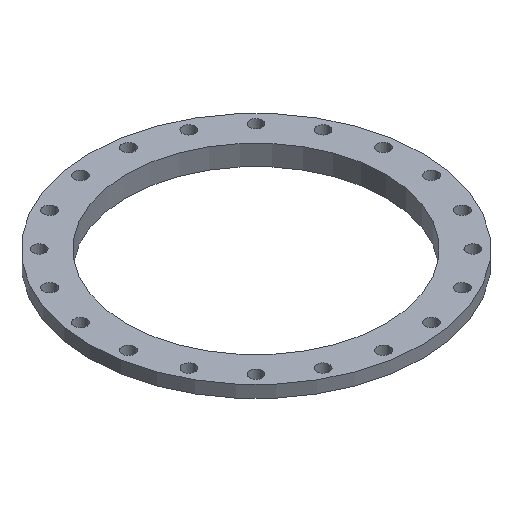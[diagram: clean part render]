
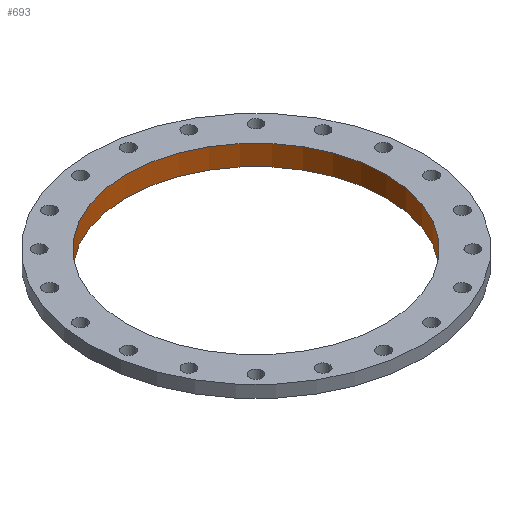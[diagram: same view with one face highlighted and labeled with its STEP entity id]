
A CAD part, isometric view. The second image highlights one B-rep face of the part: STEP entity #693.
In plain terms, the highlighted cylindrical face has radius 255.5 mm (diameter 511 mm), a full revolution.
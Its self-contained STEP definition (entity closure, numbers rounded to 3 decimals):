
#85=FACE_OUTER_BOUND('',#113,.T.);
#113=EDGE_LOOP('',(#563,#564,#565,#566,#567,#568));
#181=LINE('',#1227,#204);
#204=VECTOR('',#1021,255.5);
#270=CIRCLE('',#804,255.5);
#271=CIRCLE('',#805,255.5);
#272=CIRCLE('',#807,255.5);
#273=CIRCLE('',#808,255.5);
#345=VERTEX_POINT('',#1221);
#346=VERTEX_POINT('',#1222);
#347=VERTEX_POINT('',#1226);
#348=VERTEX_POINT('',#1228);
#440=EDGE_CURVE('',#345,#346,#270,.T.);
#441=EDGE_CURVE('',#346,#345,#271,.T.);
#442=EDGE_CURVE('',#346,#347,#181,.T.);
#443=EDGE_CURVE('',#348,#347,#272,.T.);
#444=EDGE_CURVE('',#347,#348,#273,.T.);
#563=ORIENTED_EDGE('',*,*,#440,.T.);
#564=ORIENTED_EDGE('',*,*,#442,.T.);
#565=ORIENTED_EDGE('',*,*,#443,.F.);
#566=ORIENTED_EDGE('',*,*,#444,.F.);
#567=ORIENTED_EDGE('',*,*,#442,.F.);
#568=ORIENTED_EDGE('',*,*,#441,.T.);
#669=CYLINDRICAL_SURFACE('',#806,255.5);
#693=ADVANCED_FACE('',(#85),#669,.F.);
#804=AXIS2_PLACEMENT_3D('',#1223,#1015,#1016);
#805=AXIS2_PLACEMENT_3D('',#1224,#1017,#1018);
#806=AXIS2_PLACEMENT_3D('',#1225,#1019,#1020);
#807=AXIS2_PLACEMENT_3D('',#1229,#1022,#1023);
#808=AXIS2_PLACEMENT_3D('',#1230,#1024,#1025);
#1015=DIRECTION('center_axis',(0.,0.,-1.));
#1016=DIRECTION('ref_axis',(1.,0.,0.));
#1017=DIRECTION('center_axis',(0.,0.,-1.));
#1018=DIRECTION('ref_axis',(1.,0.,0.));
#1019=DIRECTION('center_axis',(0.,0.,-1.));
#1020=DIRECTION('ref_axis',(-1.,0.,0.));
#1021=DIRECTION('',(0.,0.,1.));
#1022=DIRECTION('center_axis',(0.,0.,-1.));
#1023=DIRECTION('ref_axis',(1.,0.,0.));
#1024=DIRECTION('center_axis',(0.,0.,-1.));
#1025=DIRECTION('ref_axis',(1.,0.,0.));
#1221=CARTESIAN_POINT('',(-255.5,0.,-40.));
#1222=CARTESIAN_POINT('',(255.5,0.,-40.));
#1223=CARTESIAN_POINT('Origin',(0.,0.,-40.));
#1224=CARTESIAN_POINT('Origin',(0.,0.,-40.));
#1225=CARTESIAN_POINT('Origin',(0.,0.,-20.));
#1226=CARTESIAN_POINT('',(255.5,0.,0.));
#1227=CARTESIAN_POINT('',(255.5,0.,-20.));
#1228=CARTESIAN_POINT('',(-255.5,0.,0.));
#1229=CARTESIAN_POINT('Origin',(0.,0.,0.));
#1230=CARTESIAN_POINT('Origin',(0.,0.,0.));
